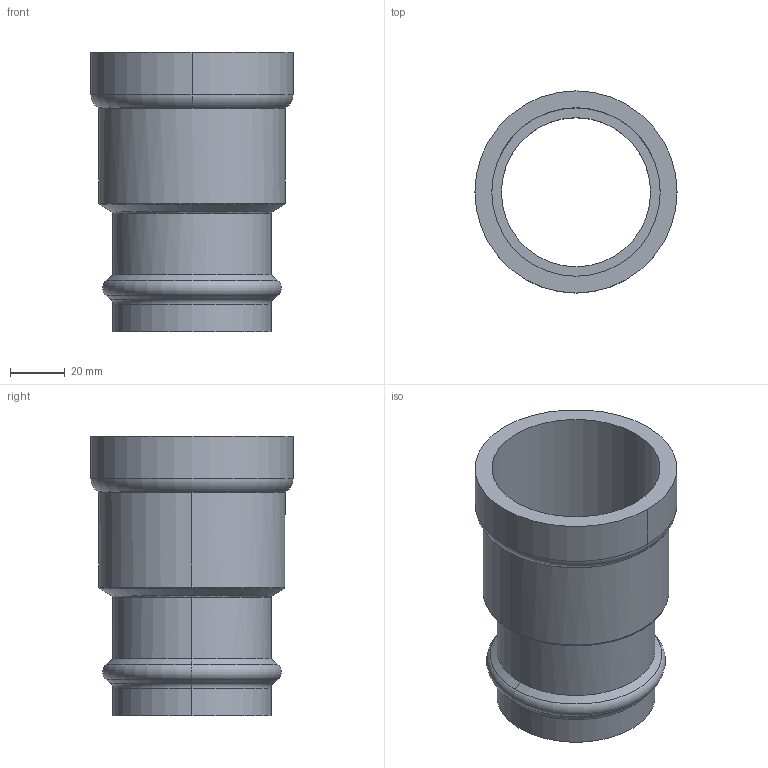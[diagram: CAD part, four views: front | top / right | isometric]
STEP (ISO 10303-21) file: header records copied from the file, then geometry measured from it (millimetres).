
FILE_DESCRIPTION(('Creo Elements/Direct Modeling STEP Export'),'2;1');
FILE_NAME('C9440_2_54.stp','2020-07-20T11:51:50',(''),(''),'PTC Creo Elements/Direct Modeling STEP processor for AP214 (Solid Model)','PTC Creo Elements/Direct Modeling 19.0C 15-Aug-2015 (C) Parametric Technology GmbH','');
FILE_SCHEMA(('AUTOMOTIVE_DESIGN { 1 0 10303 214 1 1 1 1 }'));
Length unit declared in the file: millimetre
Products named in the file (2): C9440_2_54
Assembly tree (1 placements, depth 2):
  C9440_2_54
    C9440_2_54
Bounding box: 73.8 x 73.8 x 102.08 mm (x, y, z)
Volume: 69197.5 mm3; surface area: 43091.4 mm2
Topology: 1 solids, 1 shells, 33 faces, 79 edges, 49 vertices
Faces by surface type: torus 12, cylinder 12, cone 6, plane 3
Entity records: 880 total; most frequent: ORIENTED_EDGE 158, DIRECTION 148, CARTESIAN_POINT 132, EDGE_CURVE 79, AXIS2_PLACEMENT_3D 65, VERTEX_POINT 49, EDGE_LOOP 36, FACE_OUTER_BOUND 33
